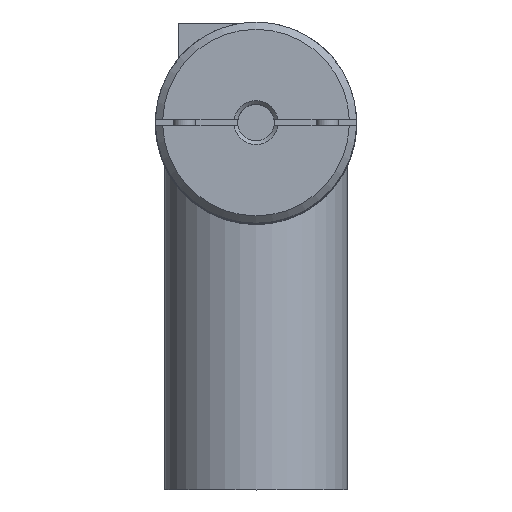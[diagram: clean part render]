
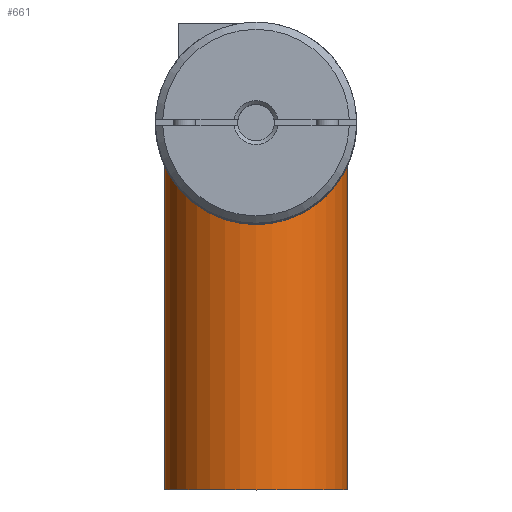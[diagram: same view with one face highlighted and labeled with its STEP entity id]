
A CAD part, top view. The second image highlights one B-rep face of the part: STEP entity #661.
In plain terms, the highlighted cylindrical face has radius 25 mm (diameter 50 mm), a full revolution.
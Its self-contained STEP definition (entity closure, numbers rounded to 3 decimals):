
#661 = ADVANCED_FACE( '', ( #1336, #1337 ), #1338, .T. );
#1336 = FACE_OUTER_BOUND( '', #1970, .T. );
#1337 = FACE_OUTER_BOUND( '', #1971, .T. );
#1338 = CYLINDRICAL_SURFACE( '', #1972, 25. );
#1970 = EDGE_LOOP( '', ( #3661 ) );
#1971 = EDGE_LOOP( '', ( #3662 ) );
#1972 = AXIS2_PLACEMENT_3D( '', #3663, #3664, #3665 );
#3661 = ORIENTED_EDGE( '', *, *, #4669, .T. );
#3662 = ORIENTED_EDGE( '', *, *, #4670, .F. );
#3663 = CARTESIAN_POINT( '', ( 0., -100., 0. ) );
#3664 = DIRECTION( '', ( 0., -1., 0. ) );
#3665 = DIRECTION( '', ( 0., 0., 1. ) );
#4669 = EDGE_CURVE( '', #5579, #5579, #5580, .T. );
#4670 = EDGE_CURVE( '', #5581, #5581, #5582, .T. );
#5579 = VERTEX_POINT( '', #7339 );
#5580 = CIRCLE( '', #7340, 25. );
#5581 = VERTEX_POINT( '', #7341 );
#5582 = CIRCLE( '', #7342, 25. );
#7339 = CARTESIAN_POINT( '', ( 25., -100., 0. ) );
#7340 = AXIS2_PLACEMENT_3D( '', #8569, #8570, #8571 );
#7341 = CARTESIAN_POINT( '', ( 25., 0., 0. ) );
#7342 = AXIS2_PLACEMENT_3D( '', #8572, #8573, #8574 );
#8569 = CARTESIAN_POINT( '', ( 0., -100., 0. ) );
#8570 = DIRECTION( '', ( 0., 1., 0. ) );
#8571 = DIRECTION( '', ( 1., 0., 0. ) );
#8572 = CARTESIAN_POINT( '', ( 0., 0., 0. ) );
#8573 = DIRECTION( '', ( 0., 1., 0. ) );
#8574 = DIRECTION( '', ( 1., 0., 0. ) );
